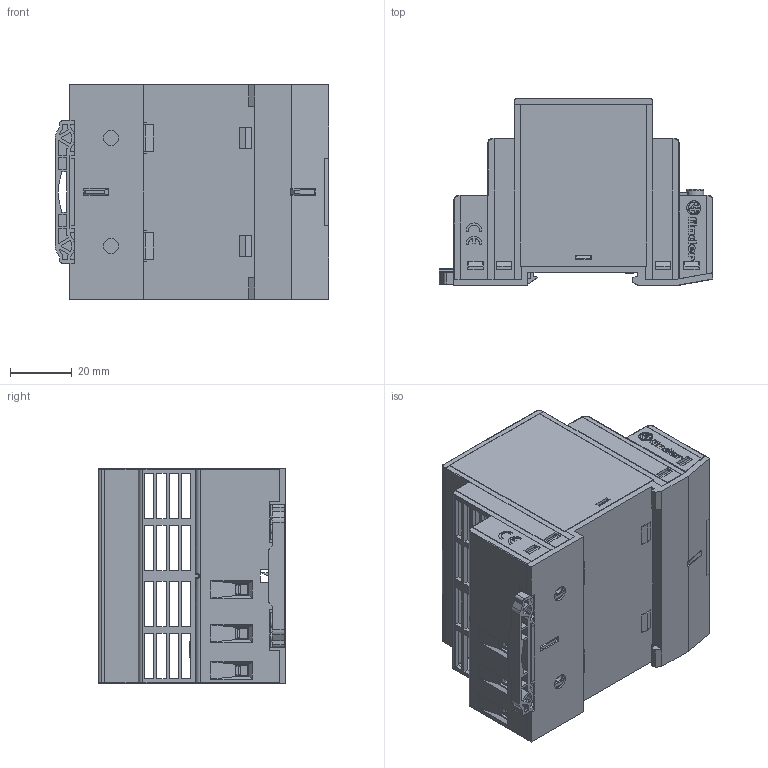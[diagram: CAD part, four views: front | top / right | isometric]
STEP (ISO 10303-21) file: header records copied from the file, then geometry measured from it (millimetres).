
FILE_DESCRIPTION(/* description */ ('Unknown'),/* implementation_level */ '2;1');
FILE_NAME(/* name */ 'Complessivo 78_50-60',/* time_stamp */ '2015-10-15T14:14:30+02:00',/* author */ ('Unknown'),/* organization */ ('Unknown'),/* preprocessor_version */ 'ST-DEVELOPER v16',/* originating_system */ 'DEX',/* authorisation */ $);
FILE_SCHEMA (('AUTOMOTIVE_DESIGN {1 0 10303 214 3 1 1}'));
Products named in the file (1): Complessivo 78_50-60
Bounding box: 88.85 x 60.8 x 70 mm (x, y, z)
Surface area: 37516.4 mm2 (no closed solid volume)
Topology: 0 solids, 55 shells, 1908 faces, 6494 edges, 4644 vertices
Faces by surface type: plane 1610, cylinder 201, bspline 38, torus 31, cone 28
Full cylindrical faces by diameter (mm): 3 x4, 4.6 x7, 5 x9, 5.6 x1
Entity records: 78418 total; most frequent: CARTESIAN_POINT 16547, ORIENTED_EDGE 10749, DIRECTION 10619, EDGE_CURVE 6458, LINE 5623, VECTOR 5623, VERTEX_POINT 4632, AXIS2_PLACEMENT_3D 2498
